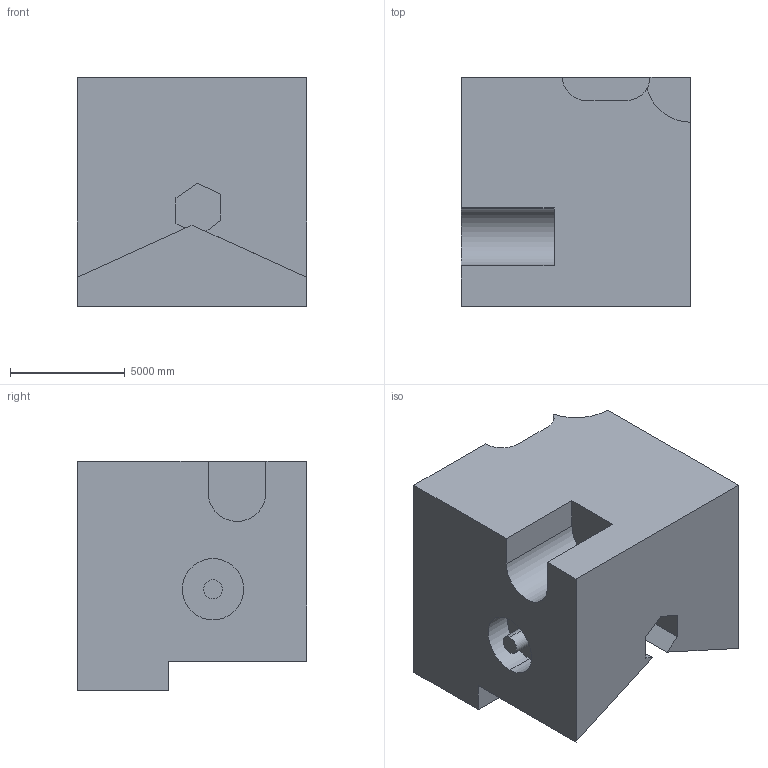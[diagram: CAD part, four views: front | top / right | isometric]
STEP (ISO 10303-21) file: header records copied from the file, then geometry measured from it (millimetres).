
FILE_DESCRIPTION (( 'STEP AP203' ), '1' );
FILE_NAME ('538.STEP', '2022-07-29T11:43:04', ( 'user' ), ( '' ), 'SwSTEP 2.0', 'SolidWorks 2021', '' );
FILE_SCHEMA (( 'CONFIG_CONTROL_DESIGN' ));
Length unit declared in the file: centimetre
Products named in the file (1): 538
Bounding box: 10000 x 10000 x 10000 mm (x, y, z)
Volume: 798153199421.7 mm3; surface area: 637814105.9 mm2
Topology: 1 solids, 1 shells, 32 faces, 84 edges, 56 vertices
Faces by surface type: plane 24, cylinder 8
Entity records: 1062 total; most frequent: CARTESIAN_POINT 173, ORIENTED_EDGE 168, DIRECTION 167, EDGE_CURVE 84, LINE 67, VECTOR 67, VERTEX_POINT 56, AXIS2_PLACEMENT_3D 50
